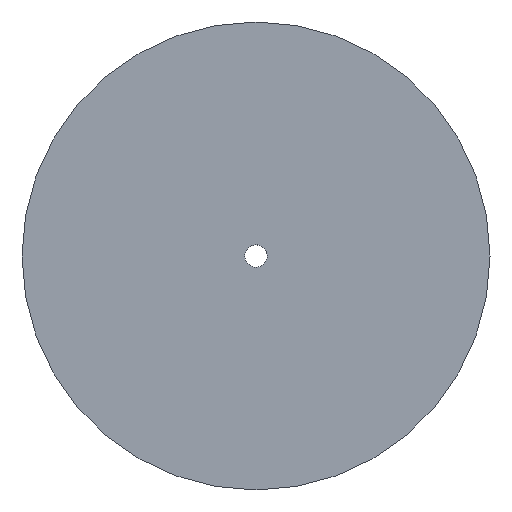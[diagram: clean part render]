
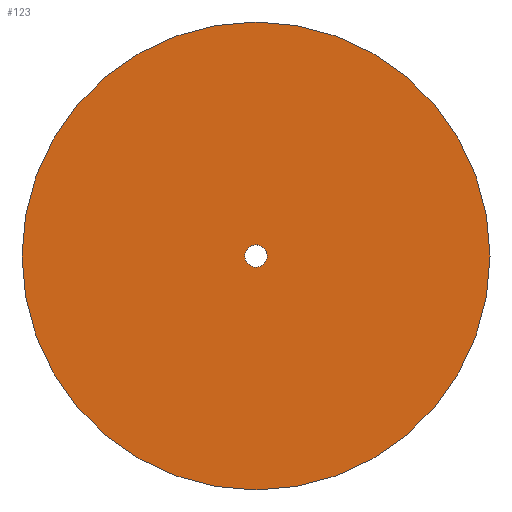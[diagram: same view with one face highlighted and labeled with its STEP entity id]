
A CAD part, top view. The second image highlights one B-rep face of the part: STEP entity #123.
In plain terms, the highlighted planar face has unit normal (0, 0, 1).
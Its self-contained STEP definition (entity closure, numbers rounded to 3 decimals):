
#62=CARTESIAN_POINT('Vertex',(-2.852,1.558,0.)) ;
#76=CARTESIAN_POINT('Vertex',(2.852,-1.558,0.)) ;
#79=CARTESIAN_POINT('Axis2P3D Location',(0.,0.,0.)) ;
#91=CARTESIAN_POINT('Axis2P3D Location',(0.,0.,0.)) ;
#96=CARTESIAN_POINT('Axis2P3D Location',(0.,0.,0.)) ;
#100=CARTESIAN_POINT('Vertex',(68.,0.,0.)) ;
#102=CARTESIAN_POINT('Vertex',(-68.,0.,0.)) ;
#105=CARTESIAN_POINT('Axis2P3D Location',(0.,0.,0.)) ;
#114=CARTESIAN_POINT('Axis2P3D Location',(0.,0.,0.)) ;
#80=DIRECTION('Axis2P3D Direction',(0.,-0.,-1.)) ;
#92=DIRECTION('Axis2P3D Direction',(0.,0.,1.)) ;
#93=DIRECTION('Axis2P3D XDirection',(1.,0.,0.)) ;
#97=DIRECTION('Axis2P3D Direction',(0.,0.,1.)) ;
#106=DIRECTION('Axis2P3D Direction',(0.,0.,1.)) ;
#115=DIRECTION('Axis2P3D Direction',(0.,0.,1.)) ;
#81=AXIS2_PLACEMENT_3D('Circle Axis2P3D',#79,#80,$) ;
#94=AXIS2_PLACEMENT_3D('Plane Axis2P3D',#91,#92,#93) ;
#98=AXIS2_PLACEMENT_3D('Circle Axis2P3D',#96,#97,$) ;
#107=AXIS2_PLACEMENT_3D('Circle Axis2P3D',#105,#106,$) ;
#116=AXIS2_PLACEMENT_3D('Circle Axis2P3D',#114,#115,$) ;
#111=ORIENTED_EDGE('',*,*,#104,.F.) ;
#112=ORIENTED_EDGE('',*,*,#109,.F.) ;
#120=ORIENTED_EDGE('',*,*,#118,.F.) ;
#121=ORIENTED_EDGE('',*,*,#83,.F.) ;
#122=FACE_BOUND('',#119,.T.) ;
#123=ADVANCED_FACE('PartBody',(#113,#122),#95,.T.) ;
#82=CIRCLE('generated circle',#81,3.25) ;
#99=CIRCLE('generated circle',#98,68.) ;
#108=CIRCLE('generated circle',#107,68.) ;
#117=CIRCLE('generated circle',#116,3.25) ;
#83=EDGE_CURVE('',#77,#63,#82,.F.) ;
#104=EDGE_CURVE('',#101,#103,#99,.F.) ;
#109=EDGE_CURVE('',#103,#101,#108,.F.) ;
#118=EDGE_CURVE('',#63,#77,#117,.T.) ;
#110=EDGE_LOOP('',(#111,#112)) ;
#119=EDGE_LOOP('',(#120,#121)) ;
#113=FACE_OUTER_BOUND('',#110,.T.) ;
#95=PLANE('',#94) ;
#63=VERTEX_POINT('',#62) ;
#77=VERTEX_POINT('',#76) ;
#101=VERTEX_POINT('',#100) ;
#103=VERTEX_POINT('',#102) ;
